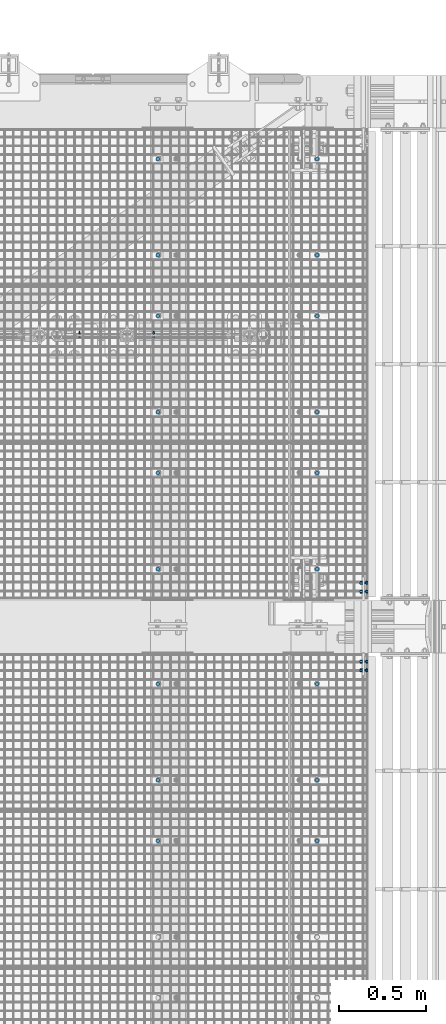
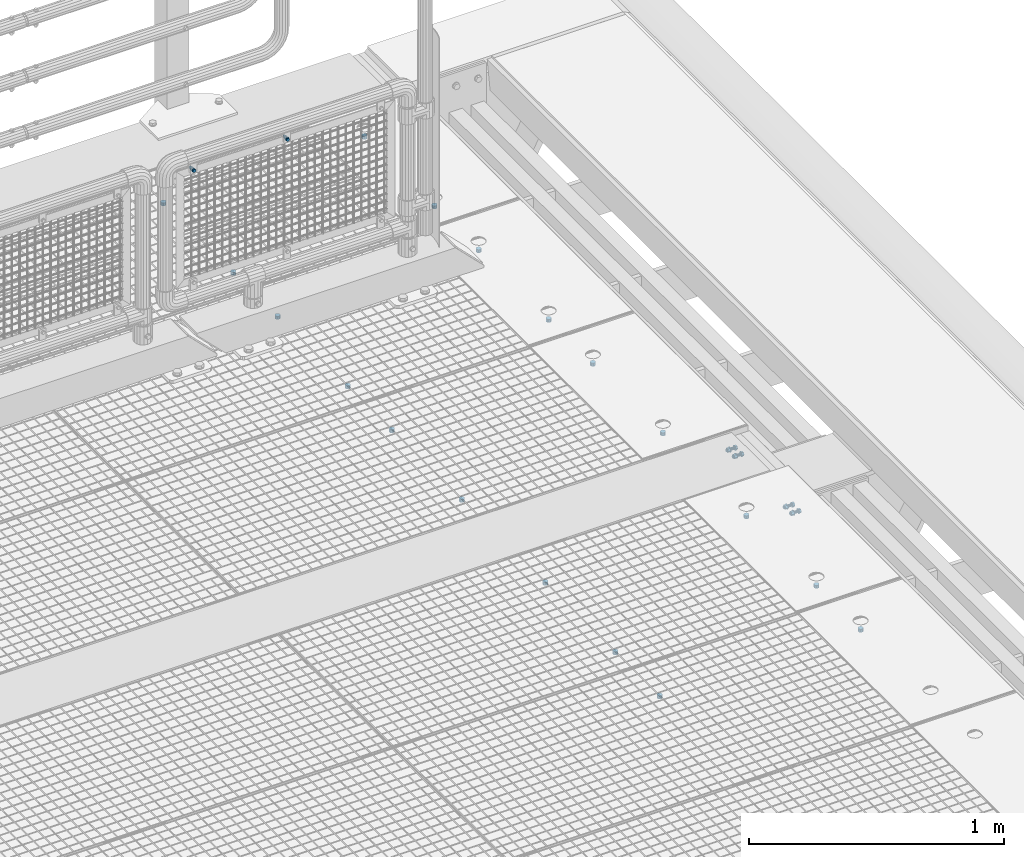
# One storey, part 105 of 1530: 22 mechanical fasteners.
"""IFC2X3 building model written with IfcOpenShell, lengths in millimetres."""

from ifc_helpers import new_model, si_unit, frame, origin_with_axes, place, context, subcontext, project, spatial, faceted_brep, source, transform, mapped, material, type_object, element, save


model = new_model("IFC2X3")

# Units and contexts
model_context = context("Model", 3, precision=1e-05, world=origin_with_axes())
body_context = subcontext(model_context, "Body", "Model", "MODEL_VIEW")
ifc_project = project(units=[si_unit("LENGTHUNIT", "METRE", prefix="MILLI"), si_unit("AREAUNIT", "SQUARE_METRE"), si_unit("VOLUMEUNIT", "CUBIC_METRE"), si_unit("MASSUNIT", "GRAM", prefix="KILO"), si_unit("TIMEUNIT", "SECOND"), si_unit("PLANEANGLEUNIT", "RADIAN"), si_unit("SOLIDANGLEUNIT", "STERADIAN"), si_unit("THERMODYNAMICTEMPERATUREUNIT", "DEGREE_CELSIUS"), si_unit("LUMINOUSINTENSITYUNIT", "LUMEN")], contexts=[model_context])

# Site, building, storey
site_placement = place(None, origin_with_axes())
site = spatial("IfcSite", under=ifc_project, at=site_placement, Name="Brattvåg", CompositionType="ELEMENT")
building_placement = place(site_placement, origin_with_axes())
building = spatial("IfcBuilding", under=site, at=building_placement, Name="Undefined", CompositionType="ELEMENT")
storey_placement = place(building_placement, origin_with_axes())
storey = spatial("IfcBuildingStorey", under=building, at=storey_placement, Name="Undefined", CompositionType="ELEMENT", Elevation=0.0)

# Mechanical fasteners
ifc_material = material(Name="8")
mechanical_fastener_type = type_object("IfcMechanicalFastenerType", Name="Bolt assembly")
shared_shape_1 = source(origin_with_axes(), body_context, "Body", "Brep", [
    faceted_brep([(10.3923048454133, -9.99999999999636, 0.0), (5.19615242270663, -9.99999999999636, 9.0), (-5.19615242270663, -9.99999999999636, 9.0), (-10.3923048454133, -9.99999999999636, 1.27269028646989e-15), (-5.19615242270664, -9.99999999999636, -9.0), (5.19615242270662, -9.99999999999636, -9.0), (5.19615242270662, -2.49999999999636, -9.0), (-5.19615242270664, -2.49999999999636, -9.0), (-10.3923048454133, -2.49999999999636, 1.27269028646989e-15), (-5.19615242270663, -2.49999999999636, 9.0), (5.19615242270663, -2.49999999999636, 9.0), (10.3923048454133, -2.49999999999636, 0.0), (6.0, -2.49999999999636, 0.0), (5.19615242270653, -2.49999999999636, 3.00000000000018), (2.99999999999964, -2.49999999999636, 5.19615242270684), (-6.21801588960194e-13, -2.49999999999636, 6.0), (-3.00000000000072, -2.49999999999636, 5.19615242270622), (-5.19615242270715, -2.49999999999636, 2.9999999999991), (-6.0, -2.49999999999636, -1.24360317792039e-12), (-5.19615242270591, -2.49999999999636, -3.00000000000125), (-2.99999999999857, -2.49999999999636, -5.19615242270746), (1.85874342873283e-12, -2.49999999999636, -6.0), (3.00000000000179, -2.49999999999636, -5.1961524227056), (5.19615242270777, -2.49999999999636, -2.99999999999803), (5.19615242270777, 37.5000000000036, -2.99999999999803), (3.00000000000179, 37.5000000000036, -5.1961524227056), (1.85874342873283e-12, 37.5000000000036, -6.0), (-2.99999999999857, 37.5000000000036, -5.19615242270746), (-5.19615242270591, 37.5000000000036, -3.00000000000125), (-6.0, 37.5000000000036, -1.24360317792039e-12), (-5.19615242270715, 37.5000000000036, 2.9999999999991), (-3.00000000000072, 37.5000000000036, 5.19615242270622), (-6.21801588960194e-13, 37.5000000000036, 6.0), (2.99999999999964, 37.5000000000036, 5.19615242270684), (5.19615242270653, 37.5000000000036, 3.00000000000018), (6.0, 37.5000000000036, 0.0), (12.0, -2.49999999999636, 0.0), (10.3923048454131, -2.49999999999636, 6.00000000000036), (5.99999999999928, -2.49999999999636, 10.3923048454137), (-1.24360317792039e-12, -2.49999999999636, 12.0), (-6.00000000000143, -2.49999999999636, 10.3923048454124), (-10.3923048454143, -2.49999999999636, 5.99999999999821), (-12.0, -2.49999999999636, -2.48720635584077e-12), (-10.3923048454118, -2.49999999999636, -6.00000000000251), (-5.99999999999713, -2.49999999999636, -10.3923048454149), (3.71748685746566e-12, -2.49999999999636, -12.0), (6.00000000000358, -2.49999999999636, -10.3923048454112), (10.3923048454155, -2.49999999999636, -5.99999999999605), (10.3923048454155, 3.63797880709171e-12, -5.99999999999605), (6.00000000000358, 3.63797880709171e-12, -10.3923048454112), (3.71748685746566e-12, 3.63797880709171e-12, -12.0), (-5.99999999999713, 3.63797880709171e-12, -10.3923048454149), (-10.3923048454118, 3.63797880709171e-12, -6.00000000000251), (-12.0, 3.63797880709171e-12, -2.48720635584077e-12), (-10.3923048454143, 3.63797880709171e-12, 5.99999999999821), (-6.00000000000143, 3.63797880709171e-12, 10.3923048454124), (-1.24360317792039e-12, 3.63797880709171e-12, 12.0), (5.99999999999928, 3.63797880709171e-12, 10.3923048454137), (10.3923048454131, 3.63797880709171e-12, 6.00000000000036), (12.0, 3.63797880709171e-12, 0.0), (12.0, 19.9943847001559, 0.0), (10.3923048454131, 19.9943847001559, 6.00000000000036), (5.99999999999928, 19.9943847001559, 10.3923048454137), (-1.24360317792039e-12, 19.9943847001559, 12.0), (-6.00000000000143, 19.9943847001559, 10.3923048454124), (-10.3923048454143, 19.9943847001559, 5.99999999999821), (-12.0, 19.9943847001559, -2.48720635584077e-12), (-10.3923048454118, 19.9943847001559, -6.00000000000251), (-5.99999999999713, 19.9943847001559, -10.3923048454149), (3.71748685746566e-12, 19.9943847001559, -12.0), (6.00000000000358, 19.9943847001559, -10.3923048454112), (10.3923048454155, 19.9943847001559, -5.99999999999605), (10.3923048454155, 22.4943847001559, -5.99999999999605), (6.00000000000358, 22.4943847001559, -10.3923048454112), (3.71748685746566e-12, 22.4943847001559, -12.0), (-5.99999999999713, 22.4943847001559, -10.3923048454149), (-10.3923048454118, 22.4943847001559, -6.00000000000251), (-12.0, 22.4943847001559, -2.48720635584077e-12), (-10.3923048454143, 22.4943847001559, 5.99999999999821), (-6.00000000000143, 22.4943847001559, 10.3923048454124), (-1.24360317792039e-12, 22.4943847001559, 12.0), (5.99999999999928, 22.4943847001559, 10.3923048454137), (10.3923048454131, 22.4943847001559, 6.00000000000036), (12.0, 22.4943847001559, 0.0), (10.3923048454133, 22.4943847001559, 0.0), (5.19615242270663, 22.4943847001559, 9.0), (-5.19615242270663, 22.4943847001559, 9.0), (-10.3923048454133, 22.4943847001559, 1.27269028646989e-15), (-5.19615242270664, 22.4943847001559, -9.0), (5.19615242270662, 22.4943847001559, -9.0), (5.19615242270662, 33.2943848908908, -9.0), (-5.19615242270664, 33.2943848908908, -9.0), (-10.3923048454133, 33.2943848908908, 1.27269028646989e-15), (-5.19615242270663, 33.2943848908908, 9.0), (5.19615242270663, 33.2943848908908, 9.0), (10.3923048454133, 33.2943848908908, 0.0)], [[[0, 1, 2, 3, 4, 5]], [[6, 7, 8, 9, 10, 11]], [[0, 11, 10, 1]], [[1, 10, 9, 2]], [[2, 9, 8, 3]], [[3, 8, 7, 4]], [[4, 7, 6, 5]], [[5, 6, 11, 0]], [[12, 13, 14, 15, 16, 17, 18, 19, 20, 21, 22, 23]], [[24, 25, 26, 27, 28, 29, 30, 31, 32, 33, 34, 35]], [[12, 35, 34, 13]], [[13, 34, 33, 14]], [[14, 33, 32, 15]], [[15, 32, 31, 16]], [[16, 31, 30, 17]], [[17, 30, 29, 18]], [[18, 29, 28, 19]], [[19, 28, 27, 20]], [[20, 27, 26, 21]], [[21, 26, 25, 22]], [[22, 25, 24, 23]], [[23, 24, 35, 12]], [[36, 37, 38, 39, 40, 41, 42, 43, 44, 45, 46, 47]], [[48, 49, 50, 51, 52, 53, 54, 55, 56, 57, 58, 59]], [[36, 59, 58, 37]], [[37, 58, 57, 38]], [[38, 57, 56, 39]], [[39, 56, 55, 40]], [[40, 55, 54, 41]], [[41, 54, 53, 42]], [[42, 53, 52, 43]], [[43, 52, 51, 44]], [[44, 51, 50, 45]], [[45, 50, 49, 46]], [[46, 49, 48, 47]], [[47, 48, 59, 36]], [[60, 61, 62, 63, 64, 65, 66, 67, 68, 69, 70, 71]], [[72, 73, 74, 75, 76, 77, 78, 79, 80, 81, 82, 83]], [[60, 83, 82, 61]], [[61, 82, 81, 62]], [[62, 81, 80, 63]], [[63, 80, 79, 64]], [[64, 79, 78, 65]], [[65, 78, 77, 66]], [[66, 77, 76, 67]], [[67, 76, 75, 68]], [[68, 75, 74, 69]], [[69, 74, 73, 70]], [[70, 73, 72, 71]], [[71, 72, 83, 60]], [[84, 85, 86, 87, 88, 89]], [[90, 91, 92, 93, 94, 95]], [[84, 95, 94, 85]], [[85, 94, 93, 86]], [[86, 93, 92, 87]], [[87, 92, 91, 88]], [[88, 91, 90, 89]], [[89, 90, 95, 84]]]),
    faceted_brep([(6.5, 0.100000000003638, 0.0), (5.62916512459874, 0.100000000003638, 3.25000000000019), (3.24999999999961, 0.100000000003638, 5.62916512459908), (-6.7361838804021e-13, 0.100000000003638, 6.5), (-3.25000000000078, 0.100000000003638, 5.6291651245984), (-5.62916512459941, 0.100000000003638, 3.24999999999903), (-6.5, 0.100000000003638, -1.34723677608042e-12), (-5.62916512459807, 0.100000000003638, -3.25000000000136), (-3.24999999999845, 0.100000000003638, -5.62916512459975), (2.01363871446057e-12, 0.100000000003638, -6.5), (3.25000000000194, 0.100000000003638, -5.62916512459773), (5.62916512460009, 0.100000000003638, -3.24999999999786), (5.62916512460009, 10.1000000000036, -3.24999999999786), (3.25000000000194, 10.1000000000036, -5.62916512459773), (2.01363871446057e-12, 10.1000000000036, -6.5), (-3.24999999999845, 10.1000000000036, -5.62916512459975), (-5.62916512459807, 10.1000000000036, -3.25000000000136), (-6.5, 10.1000000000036, -1.34723677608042e-12), (-5.62916512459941, 10.1000000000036, 3.24999999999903), (-3.25000000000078, 10.1000000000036, 5.6291651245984), (-6.7361838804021e-13, 10.1000000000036, 6.5), (3.24999999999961, 10.1000000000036, 5.62916512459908), (5.62916512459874, 10.1000000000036, 3.25000000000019), (6.5, 10.1000000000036, 0.0), (6.5, 9.89438470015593, 0.0), (5.62916512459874, 9.89438470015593, 3.25000000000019), (3.24999999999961, 9.89438470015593, 5.62916512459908), (-6.7361838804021e-13, 9.89438470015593, 6.5), (-3.25000000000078, 9.89438470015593, 5.6291651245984), (-5.62916512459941, 9.89438470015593, 3.24999999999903), (-6.5, 9.89438470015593, -1.34723677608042e-12), (-5.62916512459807, 9.89438470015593, -3.25000000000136), (-3.24999999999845, 9.89438470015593, -5.62916512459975), (2.01363871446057e-12, 9.89438470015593, -6.5), (3.25000000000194, 9.89438470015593, -5.62916512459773), (5.62916512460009, 9.89438470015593, -3.24999999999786), (5.62916512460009, 19.9943847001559, -3.24999999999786), (3.25000000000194, 19.9943847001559, -5.62916512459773), (2.01363871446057e-12, 19.9943847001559, -6.5), (-3.24999999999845, 19.9943847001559, -5.62916512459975), (-5.62916512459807, 19.9943847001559, -3.25000000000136), (-6.5, 19.9943847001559, -1.34723677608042e-12), (-5.62916512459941, 19.9943847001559, 3.24999999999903), (-3.25000000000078, 19.9943847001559, 5.6291651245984), (-6.7361838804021e-13, 19.9943847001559, 6.5), (3.24999999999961, 19.9943847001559, 5.62916512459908), (5.62916512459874, 19.9943847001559, 3.25000000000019), (6.5, 19.9943847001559, 0.0)], [[[0, 1, 2, 3, 4, 5, 6, 7, 8, 9, 10, 11]], [[12, 13, 14, 15, 16, 17, 18, 19, 20, 21, 22, 23]], [[0, 23, 22, 1]], [[1, 22, 21, 2]], [[2, 21, 20, 3]], [[3, 20, 19, 4]], [[4, 19, 18, 5]], [[5, 18, 17, 6]], [[6, 17, 16, 7]], [[7, 16, 15, 8]], [[8, 15, 14, 9]], [[9, 14, 13, 10]], [[10, 13, 12, 11]], [[11, 12, 23, 0]], [[24, 25, 26, 27, 28, 29, 30, 31, 32, 33, 34, 35]], [[36, 37, 38, 39, 40, 41, 42, 43, 44, 45, 46, 47]], [[24, 47, 46, 25]], [[25, 46, 45, 26]], [[26, 45, 44, 27]], [[27, 44, 43, 28]], [[28, 43, 42, 29]], [[29, 42, 41, 30]], [[30, 41, 40, 31]], [[31, 40, 39, 32]], [[32, 39, 38, 33]], [[33, 38, 37, 34]], [[34, 37, 36, 35]], [[35, 36, 47, 24]]]),
])
for number, where, z_axis, x_axis, name in (
    (1, (16886.9983721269, 6199.9999046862, -160.000094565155), (0.0, 0.0, 1.0), (0.0, 1.0, 0.0), "Bolt assembly"),
    (2, (16886.9983721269, 5800.0000953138, -160.000094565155), (0.0, 0.0, -1.0), (0.0, -1.0, 0.0), "Bolt assembly"),
):
    element("IfcMechanicalFastener", number, at=place(storey_placement, frame(where, z_axis=z_axis, x_axis=x_axis)), inside=storey, type_object=mechanical_fastener_type, material=ifc_material, Name=name, NominalDiameter=12.0, NominalLength=40.0, context=body_context, shape_type="MappedRepresentation", body=[
        mapped(shared_shape_1, transform((0.0, 0.0, 0.0))),
        mapped(shared_shape_1, transform((50.0, 0.0, 0.0))),
    ])
shared_shape_2 = source(origin_with_axes(), body_context, "Body", "Brep", [
    faceted_brep([(11.0, -4.99999999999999, 0.0), (9.52627944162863, -4.99999999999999, 5.50000000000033), (5.49999999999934, -4.99999999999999, 9.5262794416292), (-1.13996957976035e-12, -4.99999999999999, 11.0), (-5.50000000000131, -4.99999999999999, 9.52627944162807), (-9.52627944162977, -4.99999999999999, 5.49999999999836), (-11.0, -4.99999999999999, -2.27993915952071e-12), (-9.5262794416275, -4.99999999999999, -5.5000000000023), (-5.49999999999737, -4.99999999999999, -9.52627944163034), (3.40769628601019e-12, -4.99999999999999, -11.0), (5.50000000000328, -4.99999999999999, -9.52627944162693), (9.52627944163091, -4.99999999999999, -5.49999999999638), (9.52627944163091, 10.1, -5.49999999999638), (5.50000000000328, 10.1, -9.52627944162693), (3.40769628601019e-12, 10.1, -11.0), (-5.49999999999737, 10.1, -9.52627944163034), (-9.5262794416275, 10.1, -5.5000000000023), (-11.0, 10.1, -2.27993915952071e-12), (-9.52627944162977, 10.1, 5.49999999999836), (-5.50000000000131, 10.1, 9.52627944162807), (-1.13996957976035e-12, 10.1, 11.0), (5.49999999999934, 10.1, 9.5262794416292), (9.52627944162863, 10.1, 5.50000000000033), (11.0, 10.1, 0.0)], [[[0, 1, 2, 3, 4, 5, 6, 7, 8, 9, 10, 11]], [[12, 13, 14, 15, 16, 17, 18, 19, 20, 21, 22, 23]], [[0, 23, 22, 1]], [[1, 22, 21, 2]], [[2, 21, 20, 3]], [[3, 20, 19, 4]], [[4, 19, 18, 5]], [[5, 18, 17, 6]], [[6, 17, 16, 7]], [[7, 16, 15, 8]], [[8, 15, 14, 9]], [[9, 14, 13, 10]], [[10, 13, 12, 11]], [[11, 12, 23, 0]]]),
])
for number, where, z_axis, x_axis, name in (
    (3, (16607.7533454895, 8122.00118255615, -35.0), (0.0, -1.0, 0.0), (-1.0, 1.99999855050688e-09, 0.0), "Bolt assembly"),
    (4, (16607.7533454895, 7225.00118255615, -35.0), (0.0, -1.0, 0.0), (-1.0, 1.99999855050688e-09, 0.0), "Bolt assembly"),
    (5, (16607.7533454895, 6328.00118255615, -35.0), (0.0, -1.0, 0.0), (-1.0, 1.99999855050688e-09, 0.0), "Bolt assembly"),
    (6, (16607.7533454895, 5122.00118255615, -35.0), (0.0, -1.0, 0.0), (-1.0, 1.99999855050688e-09, 0.0), "Bolt assembly"),
    (7, (16607.7520294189, 8671.99983215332, -35.0), (0.0, -1.0, 0.0), (-1.0, 1.99999855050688e-09, 0.0), "Bolt assembly"),
    (8, (15696.2016601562, 8671.998878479, -35.0), (0.0, -1.0, 0.0), (-1.0, 1.99999855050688e-09, 0.0), "Bolt assembly"),
    (9, (15696.2016601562, 8121.99964141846, -35.0), (0.0, -1.0, 0.0), (-1.0, 1.99999855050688e-09, 0.0), "Bolt assembly"),
    (10, (16607.7520294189, 7774.99983215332, -35.0), (0.0, -1.0, 0.0), (-1.0, 1.99999855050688e-09, 0.0), "Bolt assembly"),
    (11, (15696.2016601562, 7774.998878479, -35.0), (0.0, -1.0, 0.0), (-1.0, 1.99999855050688e-09, 0.0), "Bolt assembly"),
    (12, (15696.2016601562, 7224.99964141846, -35.0), (0.0, -1.0, 0.0), (-1.0, 1.99999855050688e-09, 0.0), "Bolt assembly"),
    (13, (16607.7520294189, 6877.99983215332, -35.0), (0.0, -1.0, 0.0), (-1.0, 1.99999855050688e-09, 0.0), "Bolt assembly"),
    (14, (15696.2016601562, 6877.998878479, -35.0), (0.0, -1.0, 0.0), (-1.0, 1.99999855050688e-09, 0.0), "Bolt assembly"),
    (15, (15696.2016601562, 6327.99964141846, -35.0), (0.0, -1.0, 0.0), (-1.0, 1.99999855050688e-09, 0.0), "Bolt assembly"),
    (16, (16607.7520294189, 5671.99983215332, -35.0), (0.0, -1.0, 0.0), (-1.0, 1.99999855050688e-09, 0.0), "Bolt assembly"),
    (17, (15696.2016601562, 5671.998878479, -35.0), (0.0, -1.0, 0.0), (-1.0, 1.99999855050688e-09, 0.0), "Bolt assembly"),
    (18, (15696.2016601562, 5121.99964141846, -35.0), (0.0, -1.0, 0.0), (-1.0, 1.99999855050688e-09, 0.0), "Bolt assembly"),
    (19, (16607.7520294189, 4774.99983215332, -35.0), (0.0, -1.0, 0.0), (-1.0, 1.99999855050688e-09, 0.0), "Bolt assembly"),
    (20, (15696.2016601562, 4774.998878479, -35.0), (0.0, -1.0, 0.0), (-1.0, 1.99999855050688e-09, 0.0), "Bolt assembly"),
):
    element("IfcMechanicalFastener", number, at=place(storey_placement, frame(where, z_axis=z_axis, x_axis=x_axis)), inside=storey, type_object=mechanical_fastener_type, material=ifc_material, Name=name, NominalDiameter=20.0, NominalLength=15.0, context=body_context, shape_type="MappedRepresentation", body=[
        mapped(shared_shape_2, transform((0.0, 0.0, 0.0))),
    ])
shared_shape_3 = source(origin_with_axes(), body_context, "Body", "Brep", [
    faceted_brep([(7.50555349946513, -6.90000021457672, 0.0), (3.75277674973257, -6.90000021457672, 6.5), (-3.75277674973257, -6.90000021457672, 6.5), (-7.50555349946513, -6.90000021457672, 9.19165206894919e-16), (-3.75277674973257, -6.90000021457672, -6.5), (3.75277674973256, -6.90000021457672, -6.5), (3.75277674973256, -1.60000002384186, -6.5), (-3.75277674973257, -1.60000002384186, -6.5), (-7.50555349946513, -1.60000002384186, 9.19165206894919e-16), (-3.75277674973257, -1.60000002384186, 6.5), (3.75277674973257, -1.60000002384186, 6.5), (7.50555349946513, -1.60000002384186, 0.0), (4.0, -1.60000002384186, 0.0), (3.46410161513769, -1.60000002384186, 2.00000000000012), (1.99999999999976, -1.60000002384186, 3.46410161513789), (-4.14534392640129e-13, -1.60000002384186, 4.0), (-2.00000000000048, -1.60000002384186, 3.46410161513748), (-3.4641016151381, -1.60000002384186, 1.9999999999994), (-4.0, -1.60000002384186, -8.29068785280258e-13), (-3.46410161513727, -1.60000002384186, -2.00000000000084), (-1.99999999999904, -1.60000002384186, -3.46410161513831), (1.23916228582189e-12, -1.60000002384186, -4.0), (2.00000000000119, -1.60000002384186, -3.46410161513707), (3.46410161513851, -1.60000002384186, -1.99999999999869), (3.46410161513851, 28.3999999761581, -1.99999999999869), (2.00000000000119, 28.3999999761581, -3.46410161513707), (1.23916228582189e-12, 28.3999999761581, -4.0), (-1.99999999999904, 28.3999999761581, -3.46410161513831), (-3.46410161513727, 28.3999999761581, -2.00000000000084), (-4.0, 28.3999999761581, -8.29068785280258e-13), (-3.4641016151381, 28.3999999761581, 1.9999999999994), (-2.00000000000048, 28.3999999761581, 3.46410161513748), (-4.14534392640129e-13, 28.3999999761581, 4.0), (1.99999999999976, 28.3999999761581, 3.46410161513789), (3.46410161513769, 28.3999999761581, 2.00000000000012), (4.0, 28.3999999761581, 0.0), (8.5, -1.60000002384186, 0.0), (7.36121593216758, -1.60000002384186, 4.25000000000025), (4.24999999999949, -1.60000002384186, 7.36121593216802), (-8.80885584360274e-13, -1.60000002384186, 8.5), (-4.25000000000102, -1.60000002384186, 7.36121593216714), (-7.36121593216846, -1.60000002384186, 4.24999999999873), (-8.5, -1.60000002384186, -1.76177116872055e-12), (-7.3612159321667, -1.60000002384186, -4.25000000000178), (-4.24999999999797, -1.60000002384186, -7.3612159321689), (2.63321985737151e-12, -1.60000002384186, -8.5), (4.25000000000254, -1.60000002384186, -7.36121593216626), (7.36121593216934, -1.60000002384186, -4.24999999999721), (7.36121593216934, 0.0, -4.24999999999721), (4.25000000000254, 0.0, -7.36121593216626), (2.63321985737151e-12, 0.0, -8.5), (-4.24999999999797, 0.0, -7.3612159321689), (-7.3612159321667, 0.0, -4.25000000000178), (-8.5, 0.0, -1.76177116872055e-12), (-7.36121593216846, 0.0, 4.24999999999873), (-4.25000000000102, 0.0, 7.36121593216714), (-8.80885584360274e-13, 0.0, 8.5), (4.24999999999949, 0.0, 7.36121593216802), (7.36121593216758, 0.0, 4.25000000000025), (8.5, 0.0, 0.0), (8.5, 11.500808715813, 0.0), (7.36121593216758, 11.500808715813, 4.25000000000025), (4.24999999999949, 11.500808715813, 7.36121593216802), (-8.80885584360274e-13, 11.500808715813, 8.5), (-4.25000000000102, 11.500808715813, 7.36121593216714), (-7.36121593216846, 11.500808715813, 4.24999999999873), (-8.5, 11.500808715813, -1.76177116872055e-12), (-7.3612159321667, 11.500808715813, -4.25000000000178), (-4.24999999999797, 11.500808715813, -7.3612159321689), (2.63321985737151e-12, 11.500808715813, -8.5), (4.25000000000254, 11.500808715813, -7.36121593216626), (7.36121593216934, 11.500808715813, -4.24999999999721), (7.36121593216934, 13.1008087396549, -4.24999999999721), (4.25000000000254, 13.1008087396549, -7.36121593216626), (2.63321985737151e-12, 13.1008087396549, -8.5), (-4.24999999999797, 13.1008087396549, -7.3612159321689), (-7.3612159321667, 13.1008087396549, -4.25000000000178), (-8.5, 13.1008087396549, -1.76177116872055e-12), (-7.36121593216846, 13.1008087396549, 4.24999999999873), (-4.25000000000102, 13.1008087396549, 7.36121593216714), (-8.80885584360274e-13, 13.1008087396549, 8.5), (4.24999999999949, 13.1008087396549, 7.36121593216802), (7.36121593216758, 13.1008087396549, 4.25000000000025), (8.5, 13.1008087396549, 0.0), (7.50555349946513, 13.1008087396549, 0.0), (3.75277674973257, 13.1008087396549, 6.5), (-3.75277674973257, 13.1008087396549, 6.5), (-7.50555349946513, 13.1008087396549, 9.19165206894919e-16), (-3.75277674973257, 13.1008087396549, -6.5), (3.75277674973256, 13.1008087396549, -6.5), (3.75277674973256, 19.9008089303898, -6.5), (-3.75277674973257, 19.9008089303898, -6.5), (-7.50555349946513, 19.9008089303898, 9.19165206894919e-16), (-3.75277674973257, 19.9008089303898, 6.5), (3.75277674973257, 19.9008089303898, 6.5), (7.50555349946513, 19.9008089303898, 0.0)], [[[0, 1, 2, 3, 4, 5]], [[6, 7, 8, 9, 10, 11]], [[0, 11, 10, 1]], [[1, 10, 9, 2]], [[2, 9, 8, 3]], [[3, 8, 7, 4]], [[4, 7, 6, 5]], [[5, 6, 11, 0]], [[12, 13, 14, 15, 16, 17, 18, 19, 20, 21, 22, 23]], [[24, 25, 26, 27, 28, 29, 30, 31, 32, 33, 34, 35]], [[12, 35, 34, 13]], [[13, 34, 33, 14]], [[14, 33, 32, 15]], [[15, 32, 31, 16]], [[16, 31, 30, 17]], [[17, 30, 29, 18]], [[18, 29, 28, 19]], [[19, 28, 27, 20]], [[20, 27, 26, 21]], [[21, 26, 25, 22]], [[22, 25, 24, 23]], [[23, 24, 35, 12]], [[36, 37, 38, 39, 40, 41, 42, 43, 44, 45, 46, 47]], [[48, 49, 50, 51, 52, 53, 54, 55, 56, 57, 58, 59]], [[36, 59, 58, 37]], [[37, 58, 57, 38]], [[38, 57, 56, 39]], [[39, 56, 55, 40]], [[40, 55, 54, 41]], [[41, 54, 53, 42]], [[42, 53, 52, 43]], [[43, 52, 51, 44]], [[44, 51, 50, 45]], [[45, 50, 49, 46]], [[46, 49, 48, 47]], [[47, 48, 59, 36]], [[60, 61, 62, 63, 64, 65, 66, 67, 68, 69, 70, 71]], [[72, 73, 74, 75, 76, 77, 78, 79, 80, 81, 82, 83]], [[60, 83, 82, 61]], [[61, 82, 81, 62]], [[62, 81, 80, 63]], [[63, 80, 79, 64]], [[64, 79, 78, 65]], [[65, 78, 77, 66]], [[66, 77, 76, 67]], [[67, 76, 75, 68]], [[68, 75, 74, 69]], [[69, 74, 73, 70]], [[70, 73, 72, 71]], [[71, 72, 83, 60]], [[84, 85, 86, 87, 88, 89]], [[90, 91, 92, 93, 94, 95]], [[84, 95, 94, 85]], [[85, 94, 93, 86]], [[86, 93, 92, 87]], [[87, 92, 91, 88]], [[88, 91, 90, 89]], [[89, 90, 95, 84]]]),
    faceted_brep([(5.0, 0.1, 0.0), (4.33012701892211, 0.1, 2.50000000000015), (2.4999999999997, 0.1, 4.33012701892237), (-5.18167990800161e-13, 0.1, 5.0), (-2.5000000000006, 0.1, 4.33012701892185), (-4.33012701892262, 0.1, 2.49999999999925), (-5.0, 0.1, -1.03633598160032e-12), (-4.33012701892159, 0.1, -2.50000000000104), (-2.49999999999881, 0.1, -4.33012701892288), (1.54895285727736e-12, 0.1, -5.0), (2.50000000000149, 0.1, -4.33012701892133), (4.33012701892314, 0.1, -2.49999999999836), (4.33012701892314, 8.1, -2.49999999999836), (2.50000000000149, 8.1, -4.33012701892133), (1.54895285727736e-12, 8.1, -5.0), (-2.49999999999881, 8.1, -4.33012701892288), (-4.33012701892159, 8.1, -2.50000000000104), (-5.0, 8.1, -1.03633598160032e-12), (-4.33012701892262, 8.1, 2.49999999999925), (-2.5000000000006, 8.1, 4.33012701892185), (-5.18167990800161e-13, 8.1, 5.0), (2.4999999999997, 8.1, 4.33012701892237), (4.33012701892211, 8.1, 2.50000000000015), (5.0, 8.1, 0.0), (5.0, 8.40080871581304, 0.0), (4.33012701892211, 8.40080871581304, 2.50000000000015), (2.4999999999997, 8.40080871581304, 4.33012701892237), (-5.18167990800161e-13, 8.40080871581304, 5.0), (-2.5000000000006, 8.40080871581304, 4.33012701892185), (-4.33012701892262, 8.40080871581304, 2.49999999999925), (-5.0, 8.40080871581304, -1.03633598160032e-12), (-4.33012701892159, 8.40080871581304, -2.50000000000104), (-2.49999999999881, 8.40080871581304, -4.33012701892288), (1.54895285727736e-12, 8.40080871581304, -5.0), (2.50000000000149, 8.40080871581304, -4.33012701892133), (4.33012701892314, 8.40080871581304, -2.49999999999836), (4.33012701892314, 11.500808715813, -2.49999999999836), (2.50000000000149, 11.500808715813, -4.33012701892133), (1.54895285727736e-12, 11.500808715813, -5.0), (-2.49999999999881, 11.500808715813, -4.33012701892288), (-4.33012701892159, 11.500808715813, -2.50000000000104), (-5.0, 11.500808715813, -1.03633598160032e-12), (-4.33012701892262, 11.500808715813, 2.49999999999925), (-2.5000000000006, 11.500808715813, 4.33012701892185), (-5.18167990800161e-13, 11.500808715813, 5.0), (2.4999999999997, 11.500808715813, 4.33012701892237), (4.33012701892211, 11.500808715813, 2.50000000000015), (5.0, 11.500808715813, 0.0)], [[[0, 1, 2, 3, 4, 5, 6, 7, 8, 9, 10, 11]], [[12, 13, 14, 15, 16, 17, 18, 19, 20, 21, 22, 23]], [[0, 23, 22, 1]], [[1, 22, 21, 2]], [[2, 21, 20, 3]], [[3, 20, 19, 4]], [[4, 19, 18, 5]], [[5, 18, 17, 6]], [[6, 17, 16, 7]], [[7, 16, 15, 8]], [[8, 15, 14, 9]], [[9, 14, 13, 10]], [[10, 13, 12, 11]], [[11, 12, 23, 0]], [[24, 25, 26, 27, 28, 29, 30, 31, 32, 33, 34, 35]], [[36, 37, 38, 39, 40, 41, 42, 43, 44, 45, 46, 47]], [[24, 47, 46, 25]], [[25, 46, 45, 26]], [[26, 45, 44, 27]], [[27, 44, 43, 28]], [[28, 43, 42, 29]], [[29, 42, 41, 30]], [[30, 41, 40, 31]], [[31, 40, 39, 32]], [[32, 39, 38, 33]], [[33, 38, 37, 34]], [[34, 37, 36, 35]], [[35, 36, 47, 24]]]),
])
for number, where, z_axis, x_axis, name in (
    (21, (15249.0999145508, 7660.49831008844, 889.679782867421), (-1.0, 1.99999855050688e-09, 0.0), (0.0, 0.0, 1.0), "Bolt assembly"),
    (22, (15674.1010589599, 7660.49831008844, 889.679782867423), (-1.0, 1.99999855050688e-09, 0.0), (0.0, 0.0, 1.0), "Bolt assembly"),
):
    element("IfcMechanicalFastener", number, at=place(storey_placement, frame(where, z_axis=z_axis, x_axis=x_axis)), inside=storey, type_object=mechanical_fastener_type, material=ifc_material, Name=name, NominalDiameter=8.0, NominalLength=30.0, context=body_context, shape_type="MappedRepresentation", body=[
        mapped(shared_shape_3, transform((0.0, 0.0, 0.0))),
    ])

save(model, "model.ifc")
